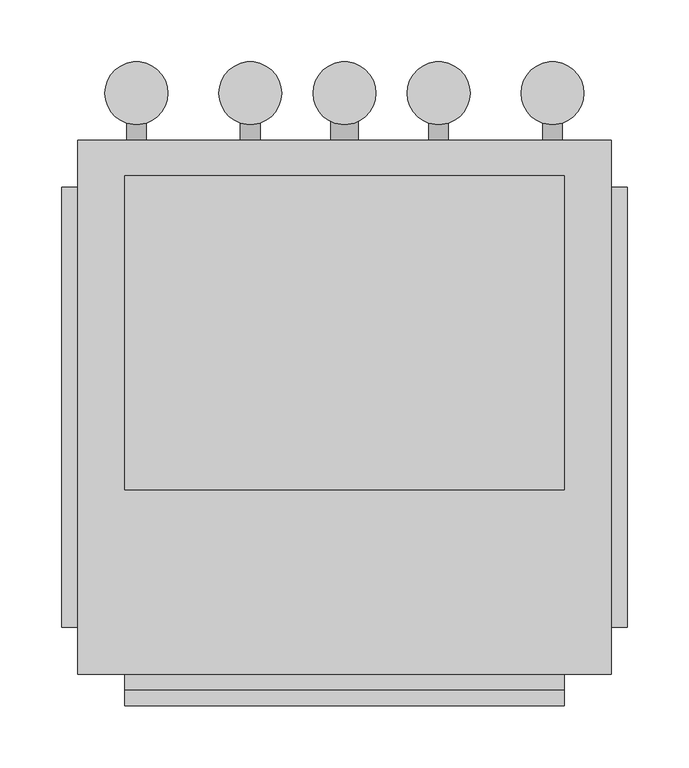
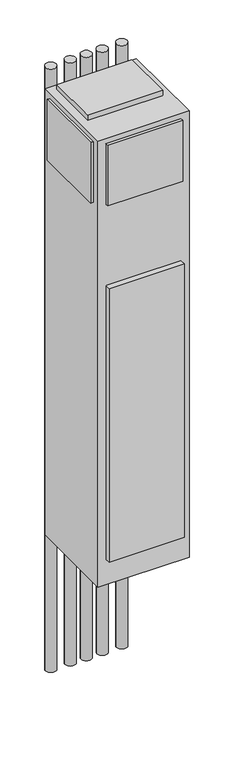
"""IFC4 building model written with IfcOpenShell, lengths in millimetres: proxy geometry, Concealed_Universal_Modular_Fan_Coil_Unit_-_42SUB_-_CARRIER_-_4-Pipe_-_WithRisers_2022 : Size 03 - 277v/60Hz/1Ph - 4/1 Coil."""

import ifcopenshell
import ifcopenshell.guid

model = None  # the IFC model being written
_history = None  # IfcOwnerHistory: only IFC2X3 demands one
_inside = {}  # id of a spatial element -> (the spatial element, [elements in it])
_under = {}  # id of a project, library or spatial element -> (it, [spatial elements below it])
_declared = {}  # id of a project -> (the project, [libraries it declares])
_typed = {}  # id of a type object -> (the type object, [elements of that type])
_made_of = {}  # id of a material, layer set ... -> (it, [elements and type objects made of it])


def new_model(schema):
    """Start an empty IFC model of exactly this schema.

    Asked for "IFC4X3", IfcOpenShell would pick the latest addendum, in which some entities
    have other attributes; the version numbers below select the first issue.
    IFC2X3 requires an IfcOwnerHistory on every rooted entity: one is made here for all.
    """
    global model, _history
    if schema == "IFC4X3":
        model = ifcopenshell.file(schema_version=(4, 3, 0, 0))
    else:
        model = ifcopenshell.file(schema=schema)
    _inside.clear()
    _under.clear()
    _declared.clear()
    _typed.clear()
    _made_of.clear()
    _history = None
    if model.schema == "IFC2X3":
        org = make("IfcOrganization", Name="unknown")
        user = make(
            "IfcPersonAndOrganization",
            ThePerson=make("IfcPerson", FamilyName="unknown"),
            TheOrganization=org,
        )
        app = make(
            "IfcApplication",
            ApplicationDeveloper=org,
            Version="unknown",
            ApplicationFullName="unknown",
            ApplicationIdentifier="unknown",
        )
        _history = make(
            "IfcOwnerHistory",
            OwningUser=user,
            OwningApplication=app,
            ChangeAction="ADDED",
            CreationDate=0,
        )
    return model


def make(cls, **values):
    """One entity of the class cls with the attributes given. An attribute that is None is left unset."""
    return model.create_entity(
        cls, **{name: value for name, value in values.items() if value is not None}
    )


def rooted(cls, **values):
    """An entity with a GlobalId (a new one), such as an element, a storey or a relation."""
    return make(cls, GlobalId=ifcopenshell.guid.new(), OwnerHistory=_history, **values)


def si_unit(unit_type, name, prefix=None):
    """IfcSIUnit, for example si_unit("LENGTHUNIT", "METRE", prefix="MILLI")."""
    return make("IfcSIUnit", UnitType=unit_type, Prefix=prefix, Name=name)


def assignment(units):
    """IfcUnitAssignment: the units of a project."""
    return None if units is None else make("IfcUnitAssignment", Units=units)


def point(xyz):
    """IfcCartesianPoint."""
    return None if xyz is None else make("IfcCartesianPoint", Coordinates=xyz)


def direction(xyz):
    """IfcDirection."""
    return None if xyz is None else make("IfcDirection", DirectionRatios=xyz)


def frame(location, z_axis=None, x_axis=None):
    """IfcAxis2Placement3D, a coordinate frame: its origin and axes. An axis left out is left unset."""
    return make(
        "IfcAxis2Placement3D",
        Location=point(location),
        Axis=direction(z_axis),
        RefDirection=direction(x_axis),
    )


def frame_2d(location, x_axis=None):
    """IfcAxis2Placement2D, a coordinate frame in the plane: its origin and x axis."""
    return make(
        "IfcAxis2Placement2D", Location=point(location), RefDirection=direction(x_axis)
    )


def origin():
    """The frame at (0, 0, 0) with its axes left unset."""
    return frame((0.0, 0.0, 0.0))


def origin_with_axes():
    """The frame at (0, 0, 0) with the z axis (0, 0, 1) and the x axis (1, 0, 0) written out."""
    return frame((0.0, 0.0, 0.0), z_axis=(0.0, 0.0, 1.0), x_axis=(1.0, 0.0, 0.0))


def place(relative_to, where):
    """IfcLocalPlacement: puts the frame where relative to a parent placement (None: the world)."""
    return make(
        "IfcLocalPlacement", PlacementRelTo=relative_to, RelativePlacement=where
    )


def context(
    kind, dimensions, precision=None, world=None, true_north=None, identifier=None
):
    """IfcGeometricRepresentationContext, for example the 3D "Model" context."""
    return make(
        "IfcGeometricRepresentationContext",
        ContextIdentifier=identifier,
        ContextType=kind,
        CoordinateSpaceDimension=dimensions,
        Precision=precision,
        WorldCoordinateSystem=world,
        TrueNorth=true_north,
    )


def project(units=None, contexts=None):
    """IfcProject with its units and contexts."""
    return rooted(
        "IfcProject",
        Name="project",
        RepresentationContexts=contexts,
        UnitsInContext=assignment(units),
    )


def spatial(cls, under=None, at=None, **own):
    """A site, building, storey or space (cls), placed at a placement, below another one or the project."""
    s = rooted(cls, ObjectPlacement=at, **own)
    if under is not None:
        _under.setdefault(under.id(), (under, []))[1].append(s)
    return s


def polyline(points):
    """IfcPolyline through the points."""
    return make("IfcPolyline", Points=[point(p) for p in points])


def circle_curve(where, radius):
    """IfcCircle in the frame where."""
    return make("IfcCircle", Position=where, Radius=radius)


def trimmed(basis, trim1, trim2, sense, master):
    """IfcTrimmedCurve: the piece of a basis curve between two trims."""
    return make(
        "IfcTrimmedCurve",
        BasisCurve=basis,
        Trim1=trim1,
        Trim2=trim2,
        SenseAgreement=sense,
        MasterRepresentation=master,
    )


def segment(curve, same_sense, transition):
    """IfcCompositeCurveSegment."""
    return make(
        "IfcCompositeCurveSegment",
        Transition=transition,
        SameSense=same_sense,
        ParentCurve=curve,
    )


def composite_curve(segments, self_intersect=None):
    """IfcCompositeCurve: segments joined end to end."""
    return make("IfcCompositeCurve", Segments=segments, SelfIntersect=self_intersect)


def outline(outer, holes=None, kind="AREA"):
    """IfcArbitraryClosedProfileDef: a profile drawn as a closed curve; with holes, ...WithVoids."""
    if holes is None:
        return make("IfcArbitraryClosedProfileDef", ProfileType=kind, OuterCurve=outer)
    return make(
        "IfcArbitraryProfileDefWithVoids",
        ProfileType=kind,
        OuterCurve=outer,
        InnerCurves=holes,
    )


def extrude(swept, where, along, depth):
    """IfcExtrudedAreaSolid: the profile swept, set in the frame where, extruded along a direction by depth."""
    return make(
        "IfcExtrudedAreaSolid",
        SweptArea=swept,
        Position=where,
        ExtrudedDirection=direction(along),
        Depth=depth,
    )


def shape(context_of_items, identifier, shape_type, items):
    """IfcShapeRepresentation: the items that make up one representation, for example the "Body"."""
    return make(
        "IfcShapeRepresentation",
        ContextOfItems=context_of_items,
        RepresentationIdentifier=identifier,
        RepresentationType=shape_type,
        Items=items,
    )


def source(mapping_origin, context_of_items, identifier, shape_type, items):
    """IfcRepresentationMap: a shape defined once, which mapped items show again and again."""
    return make(
        "IfcRepresentationMap",
        MappingOrigin=mapping_origin,
        MappedRepresentation=shape(context_of_items, identifier, shape_type, items),
    )


def transform(
    local_origin,
    x_axis=None,
    y_axis=None,
    z_axis=None,
    scale=None,
    scale2=None,
    scale3=None,
    uniform=True,
):
    """IfcCartesianTransformationOperator3D, or its non-uniform kind. x_axis, y_axis, z_axis: its Axis1, 2, 3."""
    if uniform:
        return make(
            "IfcCartesianTransformationOperator3D",
            Axis1=direction(x_axis),
            Axis2=direction(y_axis),
            LocalOrigin=point(local_origin),
            Scale=scale,
            Axis3=direction(z_axis),
        )
    return make(
        "IfcCartesianTransformationOperator3DnonUniform",
        Axis1=direction(x_axis),
        Axis2=direction(y_axis),
        LocalOrigin=point(local_origin),
        Scale=scale,
        Axis3=direction(z_axis),
        Scale2=scale2,
        Scale3=scale3,
    )


def mapped(mapping_source, mapping_target):
    """IfcMappedItem: shows the shape of a source again, moved by a transform."""
    return make(
        "IfcMappedItem", MappingSource=mapping_source, MappingTarget=mapping_target
    )


def made_of(thing, what):
    """Note that an element or type object is made of a material, layer set ...; save() writes the relation."""
    if what is not None:
        _made_of.setdefault(what.id(), (what, []))[1].append(thing)
    return thing


def element(
    cls,
    number,
    at=None,
    inside=None,
    cuts=None,
    type_object=None,
    material=None,
    context=None,
    identifier="Body",
    shape_type=None,
    held_by="IfcProductDefinitionShape",
    body=None,
    shapes=None,
    **own,
):
    """One element of the class cls, such as IfcWall. Its Tag is "e" and its number.

    at: its placement. inside: the storey or other place that contains it. cuts: it is an
    opening in that element (IfcRelVoidsElement). A single representation is given by context,
    identifier, shape_type and body (its items); several are given by shapes. held_by: the class
    of the entity that holds the representations. save() writes the other relations.
    """
    e = rooted(cls, Tag="e%d" % number, ObjectPlacement=at, **own)
    if body is not None:
        shapes = [shape(context, identifier, shape_type, body)]
    if shapes is not None:
        e.Representation = make(held_by, Representations=shapes)
    if inside is not None:
        _inside.setdefault(inside.id(), (inside, []))[1].append(e)
    if cuts is not None:
        rooted(
            "IfcRelVoidsElement", RelatingBuildingElement=cuts, RelatedOpeningElement=e
        )
    if type_object is not None:
        _typed.setdefault(type_object.id(), (type_object, []))[1].append(e)
    return made_of(e, material)


def aggregate(whole, parts):
    """IfcRelAggregates: a whole, such as a stair, and the parts it consists of."""
    return rooted("IfcRelAggregates", RelatingObject=whole, RelatedObjects=parts)


def save(model, path):
    """Write the relations noted so far, then the file.

    IfcRelAggregates (storeys below a building ...), IfcRelContainedInSpatialStructure (elements
    in a storey), IfcRelDefinesByType, IfcRelAssociatesMaterial and IfcRelDeclares: one each for
    every whole, place, type object, material and project.
    """
    for whole, parts in _under.values():
        aggregate(whole, parts)
    for where, things in _inside.values():
        rooted(
            "IfcRelContainedInSpatialStructure",
            RelatedElements=things,
            RelatingStructure=where,
        )
    for kind, things in _typed.values():
        rooted("IfcRelDefinesByType", RelatedObjects=things, RelatingType=kind)
    for what, things in _made_of.values():
        rooted("IfcRelAssociatesMaterial", RelatedObjects=things, RelatingMaterial=what)
    for by, libraries in _declared.values():
        rooted("IfcRelDeclares", RelatingContext=by, RelatedDefinitions=libraries)
    model.write(path)


def mechanical_equipment_2408cd90(model_context):
    return source(origin(), model_context, "Body", "SweptSolid", [
        extrude(outline(composite_curve([segment(trimmed(circle_curve(frame_2d((200.025, 282.575)), 25.4), [point((174.625, 282.575))], [point((225.425, 282.575))], False, "CARTESIAN"), True, "CONTINUOUS"), segment(trimmed(circle_curve(frame_2d((200.025, 282.575)), 25.4), [point((225.425, 282.575))], [point((174.625, 282.575))], False, "CARTESIAN"), True, "CONTINUOUS")], self_intersect=False)), frame((0.0, 0.0, -711.2), z_axis=(0.0, 0.0, 1.0), x_axis=(1.0, 0.0, 0.0)), (0.0, 0.0, 1.0), 3022.6),
        extrude(outline(composite_curve([segment(trimmed(circle_curve(frame_2d((292.1, 282.575)), 25.4), [point((266.7, 282.575))], [point((317.5, 282.575))], False, "CARTESIAN"), True, "CONTINUOUS"), segment(trimmed(circle_curve(frame_2d((292.1, 282.575)), 25.4), [point((317.5, 282.575))], [point((266.7, 282.575))], False, "CARTESIAN"), True, "CONTINUOUS")], self_intersect=False)), frame((0.0, 0.0, -711.2), z_axis=(0.0, 0.0, 1.0), x_axis=(1.0, 0.0, 0.0)), (0.0, 0.0, 1.0), 3022.6),
        extrude(outline(composite_curve([segment(trimmed(circle_curve(frame_2d((368.3, 282.575)), 25.4), [point((342.9, 282.575))], [point((393.7, 282.575))], False, "CARTESIAN"), True, "CONTINUOUS"), segment(trimmed(circle_curve(frame_2d((368.3, 282.575)), 25.4), [point((393.7, 282.575))], [point((342.9, 282.575))], False, "CARTESIAN"), True, "CONTINUOUS")], self_intersect=False)), frame((0.0, 0.0, -711.2), z_axis=(0.0, 0.0, 1.0), x_axis=(1.0, 0.0, 0.0)), (0.0, 0.0, 1.0), 3022.6),
        extrude(outline(composite_curve([segment(trimmed(circle_curve(frame_2d((444.5, 282.575)), 25.4), [point((419.1, 282.575))], [point((469.9, 282.575))], False, "CARTESIAN"), True, "CONTINUOUS"), segment(trimmed(circle_curve(frame_2d((444.5, 282.575)), 25.4), [point((469.9, 282.575))], [point((419.1, 282.575))], False, "CARTESIAN"), True, "CONTINUOUS")], self_intersect=False)), frame((0.0, 0.0, -711.2), z_axis=(0.0, 0.0, 1.0), x_axis=(1.0, 0.0, 0.0)), (0.0, 0.0, 1.0), 3022.6),
        extrude(outline(composite_curve([segment(trimmed(circle_curve(frame_2d((536.575, 282.575)), 25.4), [point((511.175, 282.575))], [point((561.975, 282.575))], False, "CARTESIAN"), True, "CONTINUOUS"), segment(trimmed(circle_curve(frame_2d((536.575, 282.575)), 25.4), [point((561.975, 282.575))], [point((511.175, 282.575))], False, "CARTESIAN"), True, "CONTINUOUS")], self_intersect=False)), frame((0.0, 0.0, -711.2), z_axis=(0.0, 0.0, 1.0), x_axis=(1.0, 0.0, 0.0)), (0.0, 0.0, 1.0), 3022.6),
        extrude(outline(composite_curve([segment(trimmed(circle_curve(frame_2d((990.6, 536.575)), 7.9375), [point((990.6, 528.6375))], [point((990.6, 544.5125))], False, "CARTESIAN"), True, "CONTINUOUS"), segment(trimmed(circle_curve(frame_2d((990.6, 536.575)), 7.9375), [point((990.6, 544.5125))], [point((990.6, 528.6375))], False, "CARTESIAN"), True, "CONTINUOUS")], self_intersect=False)), frame((0.0, 244.475, 0.0), z_axis=(0.0, 1.0, 0.0), x_axis=(0.0, 0.0, 1.0)), (0.0, 0.0, 1.0), 50.8),
        extrude(outline(composite_curve([segment(trimmed(circle_curve(frame_2d((990.6, 444.5)), 7.9375), [point((990.6, 436.5625))], [point((990.6, 452.4375))], False, "CARTESIAN"), True, "CONTINUOUS"), segment(trimmed(circle_curve(frame_2d((990.6, 444.5)), 7.9375), [point((990.6, 452.4375))], [point((990.6, 436.5625))], False, "CARTESIAN"), True, "CONTINUOUS")], self_intersect=False)), frame((0.0, 244.475, 0.0), z_axis=(0.0, 1.0, 0.0), x_axis=(0.0, 0.0, 1.0)), (0.0, 0.0, 1.0), 50.8),
        extrude(outline(composite_curve([segment(trimmed(circle_curve(frame_2d((990.6, 292.1)), 7.9375), [point((990.6, 284.1625))], [point((990.6, 300.0375))], False, "CARTESIAN"), True, "CONTINUOUS"), segment(trimmed(circle_curve(frame_2d((990.6, 292.1)), 7.9375), [point((990.6, 300.0375))], [point((990.6, 284.1625))], False, "CARTESIAN"), True, "CONTINUOUS")], self_intersect=False)), frame((0.0, 244.475, 0.0), z_axis=(0.0, 1.0, 0.0), x_axis=(0.0, 0.0, 1.0)), (0.0, 0.0, 1.0), 50.8),
        extrude(outline(composite_curve([segment(trimmed(circle_curve(frame_2d((990.6, 200.025)), 7.9375), [point((990.6, 192.0875))], [point((990.6, 207.9625))], False, "CARTESIAN"), True, "CONTINUOUS"), segment(trimmed(circle_curve(frame_2d((990.6, 200.025)), 7.9375), [point((990.6, 207.9625))], [point((990.6, 192.0875))], False, "CARTESIAN"), True, "CONTINUOUS")], self_intersect=False)), frame((0.0, 244.475, 0.0), z_axis=(0.0, 1.0, 0.0), x_axis=(0.0, 0.0, 1.0)), (0.0, 0.0, 1.0), 50.8),
        extrude(outline(composite_curve([segment(trimmed(circle_curve(frame_2d((76.2, 368.3)), 11.1125), [point((76.2, 357.1875))], [point((76.2, 379.4125))], False, "CARTESIAN"), True, "CONTINUOUS"), segment(trimmed(circle_curve(frame_2d((76.2, 368.3)), 11.1125), [point((76.2, 379.4125))], [point((76.2, 357.1875))], False, "CARTESIAN"), True, "CONTINUOUS")], self_intersect=False)), frame((0.0, 244.475, 0.0), z_axis=(0.0, 1.0, 0.0), x_axis=(0.0, 0.0, 1.0)), (0.0, 0.0, 1.0), 50.8),
        extrude(outline(polyline([(546.1, 215.9), (546.1, -38.1), (190.5, -38.1), (190.5, 215.9), (546.1, 215.9)])), frame((0.0, 0.0, 2235.2), z_axis=(0.0, 0.0, 1.0), x_axis=(1.0, 0.0, 0.0)), (0.0, 0.0, 1.0), 25.4),
        extrude(outline(polyline([(139.7, -149.225), (139.7, 206.375), (152.4, 206.375), (152.4, -149.225), (139.7, -149.225)])), frame((0.0, 0.0, 1905.0), z_axis=(0.0, 0.0, 1.0), x_axis=(1.0, 0.0, 0.0)), (0.0, 0.0, 1.0), 304.8),
        extrude(outline(polyline([(596.9, 206.375), (596.9, -149.225), (584.2, -149.225), (584.2, 206.375), (596.9, 206.375)])), frame((0.0, 0.0, 1905.0), z_axis=(0.0, 0.0, 1.0), x_axis=(1.0, 0.0, 0.0)), (0.0, 0.0, 1.0), 304.8),
        extrude(outline(polyline([(546.1, -200.025), (190.5, -200.025), (190.5, -187.325), (546.1, -187.325), (546.1, -200.025)])), frame((0.0, 0.0, 1905.0), z_axis=(0.0, 0.0, 1.0), x_axis=(1.0, 0.0, 0.0)), (0.0, 0.0, 1.0), 304.8),
        extrude(outline(polyline([(546.1, -212.725), (190.5, -212.725), (190.5, -187.325), (546.1, -187.325), (546.1, -212.725)])), frame((0.0, 0.0, 127.0), z_axis=(0.0, 0.0, 1.0), x_axis=(1.0, 0.0, 0.0)), (0.0, 0.0, 1.0), 1371.6),
        extrude(outline(polyline([(584.2, 244.475), (584.2, -187.325), (152.4, -187.325), (152.4, 244.475), (584.2, 244.475)])), origin_with_axes(), (0.0, 0.0, 1.0), 2235.2),
    ])


if __name__ == "__main__":
    model = new_model("IFC4")
    model_context = context("Model", 3, world=origin())
    ifc_project = project(units=[si_unit("LENGTHUNIT", "METRE", prefix="MILLI")], contexts=[model_context])
    site = spatial("IfcSite", under=ifc_project)
    building = spatial("IfcBuilding", under=site)
    placement = place(None, origin())
    mechanical_equipment_shape = mechanical_equipment_2408cd90(model_context)
    element("IfcBuildingElementProxy", 1, Name="Concealed_Universal_Modular_Fan_Coil_Unit_-_42SUB_-_CARRIER_-_4-Pipe_-_WithRisers_2022 : Size 03 - 277v/60Hz/1Ph - 4/1 Coil", ObjectType="Concealed_Universal_Modular_Fan_Coil_Unit_-_42SUB_-_CARRIER_-_4-Pipe_-_WithRisers_2022 : Size 03 - 277v/60Hz/1Ph - 4/1 Coil", at=placement, inside=building, context=model_context, shape_type="MappedRepresentation", body=[
        mapped(mechanical_equipment_shape, transform((0.0, 0.0, 0.0), x_axis=(1.0, 0.0, 0.0), y_axis=(0.0, 1.0, 0.0), z_axis=(0.0, 0.0, 1.0))),
    ])
    save(model, "model.ifc")
